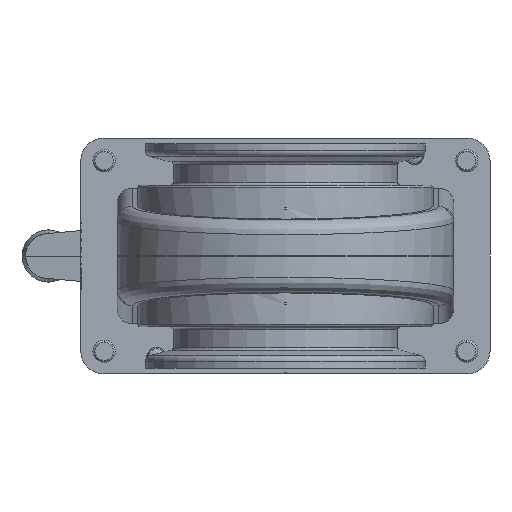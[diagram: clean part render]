
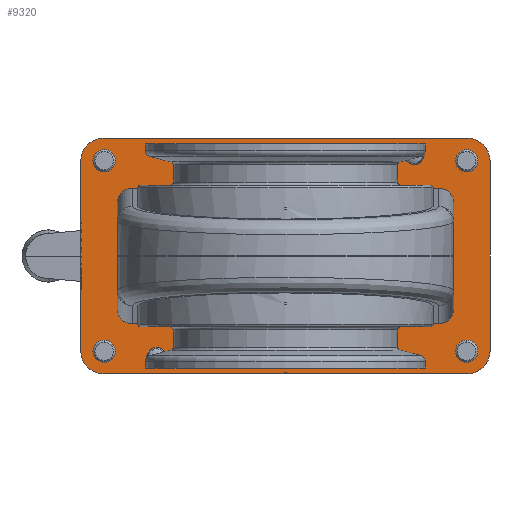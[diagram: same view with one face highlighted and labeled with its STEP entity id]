
A CAD part, front view. The second image highlights one B-rep face of the part: STEP entity #9320.
In plain terms, the highlighted planar face has unit normal (0, -1, 0) as drawn and (0, 0, -1) by its records, which use the part's own axes.
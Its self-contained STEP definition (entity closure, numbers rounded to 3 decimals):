
#4590=LINE('',#33524,#6023);
#4607=LINE('',#33751,#6040);
#4619=LINE('',#33974,#6052);
#4627=LINE('',#33994,#6060);
#4630=LINE('',#34001,#6063);
#4634=LINE('',#34015,#6067);
#4639=LINE('',#34027,#6072);
#4644=LINE('',#34038,#6077);
#6023=VECTOR('',#26663,1.);
#6040=VECTOR('',#26708,1.);
#6052=VECTOR('',#26744,1.);
#6060=VECTOR('',#26760,1.);
#6063=VECTOR('',#26769,1.);
#6067=VECTOR('',#26787,1.);
#6072=VECTOR('',#26798,1.);
#6077=VECTOR('',#26809,1.);
#9320=ADVANCED_FACE('',(#10382,#10383,#10384,#10385,#10386,#10387,#10388,
#10389),#9874,.T.);
#9874=PLANE('',#22583);
#10382=FACE_BOUND('',#11470,.T.);
#10383=FACE_BOUND('',#11471,.T.);
#10384=FACE_BOUND('',#11472,.T.);
#10385=FACE_BOUND('',#11473,.T.);
#10386=FACE_BOUND('',#11474,.T.);
#10387=FACE_BOUND('',#11475,.T.);
#10388=FACE_BOUND('',#11476,.T.);
#10389=FACE_BOUND('',#11477,.T.);
#11470=EDGE_LOOP('',(#15909));
#11471=EDGE_LOOP('',(#15910));
#11472=EDGE_LOOP('',(#15911));
#11473=EDGE_LOOP('',(#15912));
#11474=EDGE_LOOP('',(#15913));
#11475=EDGE_LOOP('',(#15914));
#11476=EDGE_LOOP('',(#15915,#15916,#15917,#15918,#15919,#15920,#15921,#15922));
#11477=EDGE_LOOP('',(#15923,#15924,#15925,#15926,#15927,#15928,#15929,#15930));
#15909=ORIENTED_EDGE('',*,*,#20362,.F.);
#15910=ORIENTED_EDGE('',*,*,#20363,.F.);
#15911=ORIENTED_EDGE('',*,*,#20364,.F.);
#15912=ORIENTED_EDGE('',*,*,#20365,.F.);
#15913=ORIENTED_EDGE('',*,*,#20366,.F.);
#15914=ORIENTED_EDGE('',*,*,#20367,.F.);
#15915=ORIENTED_EDGE('',*,*,#20337,.T.);
#15916=ORIENTED_EDGE('',*,*,#20200,.T.);
#15917=ORIENTED_EDGE('',*,*,#20338,.T.);
#15918=ORIENTED_EDGE('',*,*,#20340,.T.);
#15919=ORIENTED_EDGE('',*,*,#20342,.T.);
#15920=ORIENTED_EDGE('',*,*,#20346,.T.);
#15921=ORIENTED_EDGE('',*,*,#20349,.T.);
#15922=ORIENTED_EDGE('',*,*,#20262,.T.);
#15923=ORIENTED_EDGE('',*,*,#20315,.T.);
#15924=ORIENTED_EDGE('',*,*,#20319,.T.);
#15925=ORIENTED_EDGE('',*,*,#20322,.T.);
#15926=ORIENTED_EDGE('',*,*,#20329,.T.);
#15927=ORIENTED_EDGE('',*,*,#20331,.T.);
#15928=ORIENTED_EDGE('',*,*,#20333,.T.);
#15929=ORIENTED_EDGE('',*,*,#20335,.T.);
#15930=ORIENTED_EDGE('',*,*,#20352,.T.);
#17896=VERTEX_POINT('',#33523);
#17897=VERTEX_POINT('',#33525);
#17957=VERTEX_POINT('',#33752);
#17958=VERTEX_POINT('',#33753);
#18008=VERTEX_POINT('',#33966);
#18009=VERTEX_POINT('',#33967);
#18012=VERTEX_POINT('',#33975);
#18014=VERTEX_POINT('',#33981);
#18019=VERTEX_POINT('',#33993);
#18020=VERTEX_POINT('',#33998);
#18021=VERTEX_POINT('',#34002);
#18022=VERTEX_POINT('',#34006);
#18023=VERTEX_POINT('',#34012);
#18024=VERTEX_POINT('',#34016);
#18025=VERTEX_POINT('',#34020);
#18027=VERTEX_POINT('',#34026);
#18038=VERTEX_POINT('',#34058);
#18039=VERTEX_POINT('',#34060);
#18040=VERTEX_POINT('',#34062);
#18041=VERTEX_POINT('',#34064);
#18042=VERTEX_POINT('',#34066);
#18043=VERTEX_POINT('',#34068);
#20200=EDGE_CURVE('',#17897,#17896,#4590,.T.);
#20262=EDGE_CURVE('',#17957,#17958,#4607,.T.);
#20315=EDGE_CURVE('',#18008,#18009,#21189,.T.);
#20319=EDGE_CURVE('',#18009,#18012,#4619,.T.);
#20322=EDGE_CURVE('',#18012,#18014,#21191,.T.);
#20329=EDGE_CURVE('',#18014,#18019,#4627,.T.);
#20331=EDGE_CURVE('',#18019,#18020,#21193,.T.);
#20333=EDGE_CURVE('',#18020,#18021,#4630,.T.);
#20335=EDGE_CURVE('',#18021,#18022,#21194,.T.);
#20337=EDGE_CURVE('',#17958,#17897,#21195,.T.);
#20338=EDGE_CURVE('',#17896,#18023,#21196,.T.);
#20340=EDGE_CURVE('',#18023,#18024,#4634,.T.);
#20342=EDGE_CURVE('',#18024,#18025,#21197,.T.);
#20346=EDGE_CURVE('',#18025,#18027,#4639,.T.);
#20349=EDGE_CURVE('',#18027,#17957,#21198,.T.);
#20352=EDGE_CURVE('',#18022,#18008,#4644,.T.);
#20362=EDGE_CURVE('',#18038,#18038,#21201,.T.);
#20363=EDGE_CURVE('',#18039,#18039,#21202,.T.);
#20364=EDGE_CURVE('',#18040,#18040,#21203,.T.);
#20365=EDGE_CURVE('',#18041,#18041,#21204,.T.);
#20366=EDGE_CURVE('',#18042,#18042,#21205,.T.);
#20367=EDGE_CURVE('',#18043,#18043,#21206,.T.);
#21189=CIRCLE('',#22550,2.);
#21191=CIRCLE('',#22554,2.);
#21193=CIRCLE('',#22558,2.);
#21194=CIRCLE('',#22561,2.);
#21195=CIRCLE('',#22563,6.);
#21196=CIRCLE('',#22565,6.);
#21197=CIRCLE('',#22568,6.);
#21198=CIRCLE('',#22571,6.);
#21201=CIRCLE('',#22577,2.5);
#21202=CIRCLE('',#22578,2.5);
#21203=CIRCLE('',#22579,2.5);
#21204=CIRCLE('',#22580,2.5);
#21205=CIRCLE('',#22581,2.6);
#21206=CIRCLE('',#22582,2.6);
#22550=AXIS2_PLACEMENT_3D('',#33965,#26736,#26737);
#22554=AXIS2_PLACEMENT_3D('',#33980,#26749,#26750);
#22558=AXIS2_PLACEMENT_3D('',#33997,#26764,#26765);
#22561=AXIS2_PLACEMENT_3D('',#34005,#26773,#26774);
#22563=AXIS2_PLACEMENT_3D('',#34009,#26778,#26779);
#22565=AXIS2_PLACEMENT_3D('',#34011,#26782,#26783);
#22568=AXIS2_PLACEMENT_3D('',#34019,#26791,#26792);
#22571=AXIS2_PLACEMENT_3D('',#34032,#26803,#26804);
#22577=AXIS2_PLACEMENT_3D('',#34057,#26825,#26826);
#22578=AXIS2_PLACEMENT_3D('',#34059,#26827,#26828);
#22579=AXIS2_PLACEMENT_3D('',#34061,#26829,#26830);
#22580=AXIS2_PLACEMENT_3D('',#34063,#26831,#26832);
#22581=AXIS2_PLACEMENT_3D('',#34065,#26833,#26834);
#22582=AXIS2_PLACEMENT_3D('',#34067,#26835,#26836);
#22583=AXIS2_PLACEMENT_3D('',#34069,#26837,#26838);
#26663=DIRECTION('',(-1.,0.,0.));
#26708=DIRECTION('',(0.,-1.,0.));
#26736=DIRECTION('',(0.,0.,1.));
#26737=DIRECTION('',(-1.,0.,0.));
#26744=DIRECTION('',(0.,-1.,0.));
#26749=DIRECTION('',(0.,0.,1.));
#26750=DIRECTION('',(-1.,0.,0.));
#26760=DIRECTION('',(1.,0.,0.));
#26764=DIRECTION('',(0.,0.,1.));
#26765=DIRECTION('',(1.,0.,0.));
#26769=DIRECTION('',(0.,1.,0.));
#26773=DIRECTION('',(0.,0.,1.));
#26774=DIRECTION('',(1.,0.,0.));
#26778=DIRECTION('',(0.,0.,-1.));
#26779=DIRECTION('',(1.,0.,0.));
#26782=DIRECTION('',(0.,0.,-1.));
#26783=DIRECTION('',(-1.,0.,0.));
#26787=DIRECTION('',(0.,1.,0.));
#26791=DIRECTION('',(0.,0.,-1.));
#26792=DIRECTION('',(-1.,0.,0.));
#26798=DIRECTION('',(1.,0.,0.));
#26803=DIRECTION('',(0.,0.,-1.));
#26804=DIRECTION('',(1.,0.,0.));
#26809=DIRECTION('',(-1.,0.,0.));
#26825=DIRECTION('',(0.,0.,-1.));
#26826=DIRECTION('',(-1.,0.,0.));
#26827=DIRECTION('',(0.,0.,-1.));
#26828=DIRECTION('',(-1.,0.,0.));
#26829=DIRECTION('',(0.,0.,-1.));
#26830=DIRECTION('',(-1.,0.,0.));
#26831=DIRECTION('',(0.,0.,-1.));
#26832=DIRECTION('',(-1.,0.,0.));
#26833=DIRECTION('',(0.,0.,-1.));
#26834=DIRECTION('',(-1.,0.,0.));
#26835=DIRECTION('',(0.,0.,-1.));
#26836=DIRECTION('',(-1.,0.,0.));
#26837=DIRECTION('',(0.,0.,-1.));
#26838=DIRECTION('',(-1.,0.,0.));
#33523=CARTESIAN_POINT('',(-48.75,-31.5,0.));
#33524=CARTESIAN_POINT('',(48.75,-31.5,0.));
#33525=CARTESIAN_POINT('',(48.75,-31.5,0.));
#33751=CARTESIAN_POINT('',(54.75,25.5,0.));
#33752=CARTESIAN_POINT('',(54.75,25.5,0.));
#33753=CARTESIAN_POINT('',(54.75,-25.5,0.));
#33965=CARTESIAN_POINT('',(-41.5,14.5,0.));
#33966=CARTESIAN_POINT('',(-41.5,16.5,0.));
#33967=CARTESIAN_POINT('',(-43.5,14.5,0.));
#33974=CARTESIAN_POINT('',(-43.5,14.5,0.));
#33975=CARTESIAN_POINT('',(-43.5,-14.5,0.));
#33980=CARTESIAN_POINT('',(-41.5,-14.5,0.));
#33981=CARTESIAN_POINT('',(-41.5,-16.5,0.));
#33993=CARTESIAN_POINT('',(41.5,-16.5,0.));
#33994=CARTESIAN_POINT('',(-41.5,-16.5,0.));
#33997=CARTESIAN_POINT('',(41.5,-14.5,0.));
#33998=CARTESIAN_POINT('',(43.5,-14.5,0.));
#34001=CARTESIAN_POINT('',(43.5,-14.5,0.));
#34002=CARTESIAN_POINT('',(43.5,14.5,0.));
#34005=CARTESIAN_POINT('',(41.5,14.5,0.));
#34006=CARTESIAN_POINT('',(41.5,16.5,0.));
#34009=CARTESIAN_POINT('',(48.75,-25.5,0.));
#34011=CARTESIAN_POINT('',(-48.75,-25.5,0.));
#34012=CARTESIAN_POINT('',(-54.75,-25.5,0.));
#34015=CARTESIAN_POINT('',(-54.75,-25.5,0.));
#34016=CARTESIAN_POINT('',(-54.75,25.5,0.));
#34019=CARTESIAN_POINT('',(-48.75,25.5,0.));
#34020=CARTESIAN_POINT('',(-48.75,31.5,0.));
#34026=CARTESIAN_POINT('',(48.75,31.5,0.));
#34027=CARTESIAN_POINT('',(-48.75,31.5,0.));
#34032=CARTESIAN_POINT('',(48.75,25.5,0.));
#34038=CARTESIAN_POINT('',(41.5,16.5,0.));
#34057=CARTESIAN_POINT('',(-48.5,25.5,0.));
#34058=CARTESIAN_POINT('',(-51.,25.5,0.));
#34059=CARTESIAN_POINT('',(48.5,25.5,0.));
#34060=CARTESIAN_POINT('',(46.,25.5,0.));
#34061=CARTESIAN_POINT('',(48.5,-25.5,0.));
#34062=CARTESIAN_POINT('',(46.,-25.5,0.));
#34063=CARTESIAN_POINT('',(-48.5,-25.5,0.));
#34064=CARTESIAN_POINT('',(-51.,-25.5,0.));
#34065=CARTESIAN_POINT('',(34.5,-27.,0.));
#34066=CARTESIAN_POINT('',(31.9,-27.,0.));
#34067=CARTESIAN_POINT('',(-34.5,27.,0.));
#34068=CARTESIAN_POINT('',(-37.1,27.,0.));
#34069=CARTESIAN_POINT('',(48.75,-25.5,0.));
